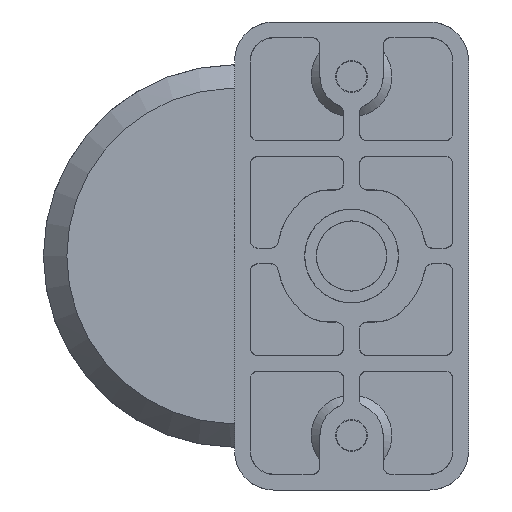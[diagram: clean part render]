
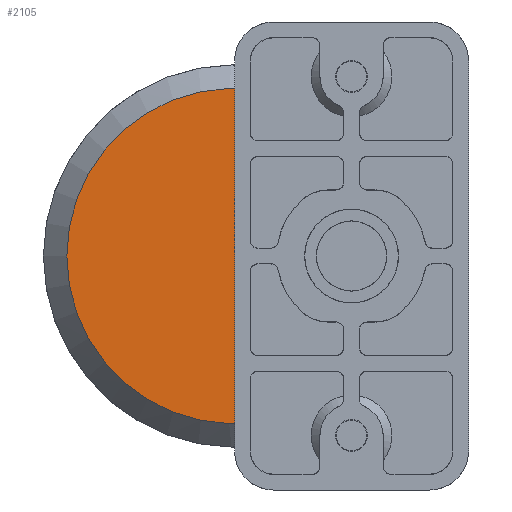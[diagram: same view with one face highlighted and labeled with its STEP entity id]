
A CAD part, front view. The second image highlights one B-rep face of the part: STEP entity #2105.
In plain terms, the highlighted planar face has unit normal (0, -1, 0).
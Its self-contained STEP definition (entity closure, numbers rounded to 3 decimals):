
#913=CARTESIAN_POINT('',(20.911,2.,-5.));
#919=DIRECTION('',(1.,0.,0.));
#920=VECTOR('',#919,13.911);
#921=CARTESIAN_POINT('',(7.,2.,-5.));
#922=LINE('',#921,#920);
#931=CARTESIAN_POINT('',(0.,2.,0.));
#932=DIRECTION('',(0.,-1.,0.));
#933=DIRECTION('',(0.973,0.,0.233));
#934=AXIS2_PLACEMENT_3D('',#931,#932,#933);
#950=CARTESIAN_POINT('',(20.911,2.,5.));
#960=DIRECTION('',(1.,0.,0.));
#961=VECTOR('',#960,13.911);
#962=CARTESIAN_POINT('',(7.,2.,5.));
#963=LINE('',#962,#961);
#993=DIRECTION('',(0.,0.,-1.));
#994=VECTOR('',#993,10.);
#995=CARTESIAN_POINT('',(7.,2.,5.));
#996=LINE('',#995,#994);
#1074=CARTESIAN_POINT('',(7.,2.,5.));
#1075=CARTESIAN_POINT('',(7.,2.,-5.));
#1076=VERTEX_POINT('',#1074);
#1077=VERTEX_POINT('',#1075);
#1095=VERTEX_POINT('',#950);
#1098=VERTEX_POINT('',#913);
#2092=CARTESIAN_POINT('',(0.,2.,0.));
#2093=DIRECTION('',(0.,-1.,0.));
#2094=DIRECTION('',(0.,0.,1.));
#2095=AXIS2_PLACEMENT_3D('',#2092,#2093,#2094);
#2096=PLANE('',#2095);
#2097=ORIENTED_EDGE('',*,*,#2082,.F.);
#2099=ORIENTED_EDGE('',*,*,#2098,.F.);
#2101=ORIENTED_EDGE('',*,*,#2100,.T.);
#2102=ORIENTED_EDGE('',*,*,#2062,.T.);
#2103=EDGE_LOOP('',(#2097,#2099,#2101,#2102));
#2104=FACE_OUTER_BOUND('',#2103,.F.);
#2105=ADVANCED_FACE('',(#2104),#2096,.T.);
#935=CIRCLE('',#934,21.5);
#2062=EDGE_CURVE('',#1077,#1098,#922,.T.);
#2082=EDGE_CURVE('',#1095,#1098,#935,.T.);
#2098=EDGE_CURVE('',#1076,#1095,#963,.T.);
#2100=EDGE_CURVE('',#1076,#1077,#996,.T.);
